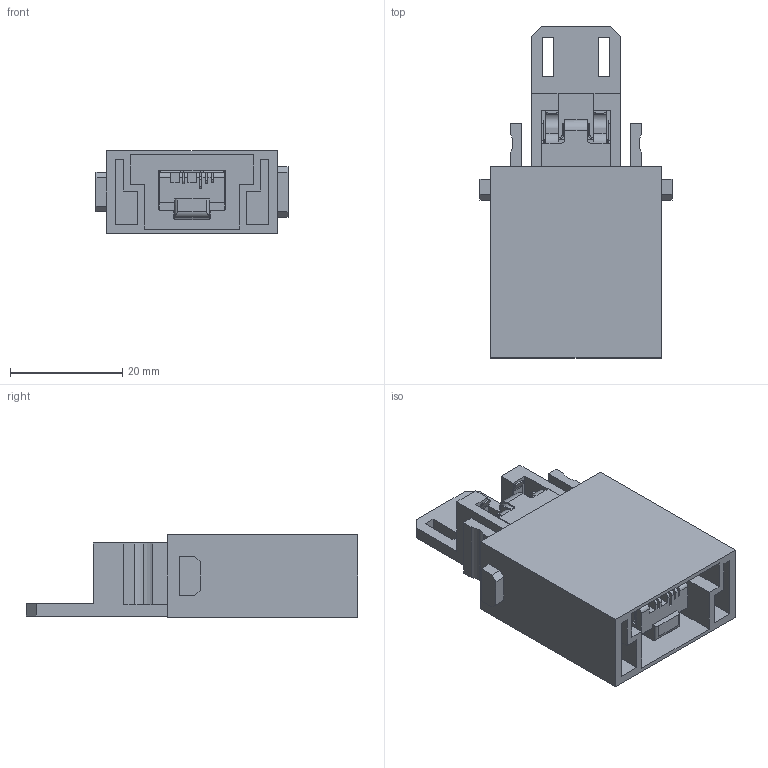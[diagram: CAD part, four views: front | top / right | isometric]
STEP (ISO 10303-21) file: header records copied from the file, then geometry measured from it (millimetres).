
FILE_DESCRIPTION (( 'STEP AP203' ), '1' );
FILE_NAME ('HM-RJ45-M.STEP', '2022-03-28T05:49:03', ( '' ), ( '' ), 'SwSTEP 2.0', 'SolidWorks 2016', '' );
FILE_SCHEMA (( 'CONFIG_CONTROL_DESIGN' ));
Length unit declared in the file: millimetre
Products named in the file (3): 09454001100_100775604MOD000B; 09140014623_100186382MOD000E; HM-RJ45-M
Assembly tree (2 placements, depth 2):
  HM-RJ45-M
    09140014623_100186382MOD000E
    09454001100_100775604MOD000B
Bounding box: 34.2 x 59.1 x 14.65 mm (x, y, z)
Volume: 11757.9 mm3; surface area: 13303.8 mm2
Topology: 2 solids, 3 shells, 589 faces, 1711 edges, 1130 vertices
Faces by surface type: plane 399, cylinder 115, bspline 75
Entity records: 21100 total; most frequent: CARTESIAN_POINT 6142, ORIENTED_EDGE 3422, DIRECTION 2422, EDGE_CURVE 1711, LINE 1290, VECTOR 1290, VERTEX_POINT 1130, EDGE_LOOP 615
